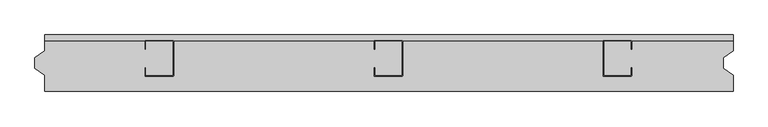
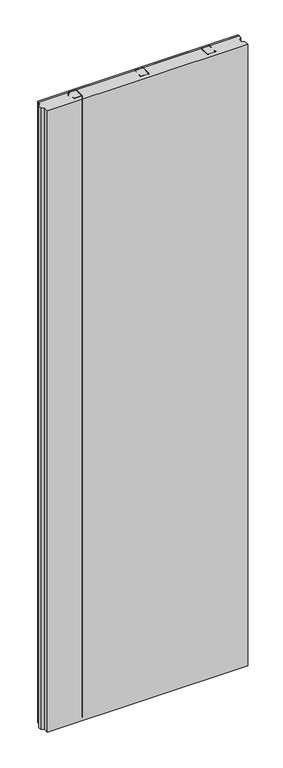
"""IFC4 building model written with IfcOpenShell, lengths in millimetres: plate geometry, Steelfoam Divisorio : Divisorio 9cm."""

from ifc_helpers import new_model, si_unit, point, frame_2d, origin, origin_with_axes, place, context, project, spatial, polyline, circle_curve, trimmed, segment, composite_curve, outline, extrude, source, transform, mapped, element, save


def plate_901790f3(model_context):
    return source(origin(), model_context, "Body", "SweptSolid", [
        extrude(outline(composite_curve([segment(trimmed(circle_curve(frame_2d((381.6603819, -61.5)), 2.0), [point((381.6603819, -63.5))], [point((379.6603819, -61.5))], False, "CARTESIAN"), True, "CONTINUOUS"), segment(polyline([(379.6603819, -61.5), (379.6603819, -2.0)]), True, "CONTINUOUS"), segment(trimmed(circle_curve(frame_2d((381.6603819, -2.0)), 2.0), [point((379.6603819, -2.0))], [point((381.6603819, 0.0))], False, "CARTESIAN"), True, "CONTINUOUS"), segment(polyline([(381.6603819, 0.0), (428.4603819, 0.0)]), True, "CONTINUOUS"), segment(trimmed(circle_curve(frame_2d((428.4603819, -2.0)), 2.0), [point((428.4603819, 0.0))], [point((430.4603819, -2.0))], False, "CARTESIAN"), True, "CONTINUOUS"), segment(polyline([(430.4603819, -2.0), (430.4603819, -15.0), (429.6603819, -15.0), (429.6603819, -2.0)]), True, "CONTINUOUS"), segment(trimmed(circle_curve(frame_2d((428.3603819, -2.0)), 1.3), [point((429.6603819, -2.0))], [point((428.3603819, -0.7))], True, "CARTESIAN"), True, "CONTINUOUS"), segment(polyline([(428.3603819, -0.7), (381.6603819, -0.7)]), True, "CONTINUOUS"), segment(trimmed(circle_curve(frame_2d((381.6603819, -2.0)), 1.3), [point((381.6603819, -0.7))], [point((380.3603819, -2.0))], True, "CARTESIAN"), True, "CONTINUOUS"), segment(polyline([(380.3603819, -2.0), (380.3603819, -61.5)]), True, "CONTINUOUS"), segment(trimmed(circle_curve(frame_2d((381.6603819, -61.5)), 1.3), [point((380.3603819, -61.5))], [point((381.6603819, -62.8))], True, "CARTESIAN"), True, "CONTINUOUS"), segment(polyline([(381.6603819, -62.8), (428.3603819, -62.8)]), True, "CONTINUOUS"), segment(trimmed(circle_curve(frame_2d((428.3603819, -61.5)), 1.3), [point((428.3603819, -62.8))], [point((429.6603819, -61.5))], True, "CARTESIAN"), True, "CONTINUOUS"), segment(polyline([(429.6603819, -61.5), (429.6603819, -48.5), (430.4603819, -48.5), (430.4603819, -61.5)]), True, "CONTINUOUS"), segment(trimmed(circle_curve(frame_2d((428.4603819, -61.5)), 2.0), [point((430.4603819, -61.5))], [point((428.4603819, -63.5))], False, "CARTESIAN"), True, "CONTINUOUS"), segment(polyline([(428.4603819, -63.5), (381.6603819, -63.5)]), True, "CONTINUOUS")], self_intersect=False)), origin_with_axes(), (0.0, 0.0, 1.0), 4000.0),
        extrude(outline(composite_curve([segment(polyline([(-383.6225297, -63.5), (-430.4225297, -63.5)]), True, "CONTINUOUS"), segment(trimmed(circle_curve(frame_2d((-430.4225297, -61.5)), 2.0), [point((-430.4225297, -63.5))], [point((-432.4225297, -61.5))], False, "CARTESIAN"), True, "CONTINUOUS"), segment(polyline([(-432.4225297, -61.5), (-432.4225297, -48.5), (-431.6225297, -48.5), (-431.6225297, -61.5)]), True, "CONTINUOUS"), segment(trimmed(circle_curve(frame_2d((-430.3225297, -61.5)), 1.3), [point((-431.6225297, -61.5))], [point((-430.3225297, -62.8))], True, "CARTESIAN"), True, "CONTINUOUS"), segment(polyline([(-430.3225297, -62.8), (-383.6225297, -62.8)]), True, "CONTINUOUS"), segment(trimmed(circle_curve(frame_2d((-383.6225297, -61.5)), 1.3), [point((-383.6225297, -62.8))], [point((-382.3225297, -61.5))], True, "CARTESIAN"), True, "CONTINUOUS"), segment(polyline([(-382.3225297, -61.5), (-382.3225297, -2.0)]), True, "CONTINUOUS"), segment(trimmed(circle_curve(frame_2d((-383.6225297, -2.0)), 1.3), [point((-382.3225297, -2.0))], [point((-383.6225297, -0.7))], True, "CARTESIAN"), True, "CONTINUOUS"), segment(polyline([(-383.6225297, -0.7), (-430.3225297, -0.7)]), True, "CONTINUOUS"), segment(trimmed(circle_curve(frame_2d((-430.3225297, -2.0)), 1.3), [point((-430.3225297, -0.7))], [point((-431.6225297, -2.0))], True, "CARTESIAN"), True, "CONTINUOUS"), segment(polyline([(-431.6225297, -2.0), (-431.6225297, -15.0), (-432.4225297, -15.0), (-432.4225297, -2.0)]), True, "CONTINUOUS"), segment(trimmed(circle_curve(frame_2d((-430.4225297, -2.0)), 2.0), [point((-432.4225297, -2.0))], [point((-430.4225297, 0.0))], False, "CARTESIAN"), True, "CONTINUOUS"), segment(polyline([(-430.4225297, 0.0), (-383.6225297, 0.0)]), True, "CONTINUOUS"), segment(trimmed(circle_curve(frame_2d((-383.6225297, -2.0)), 2.0), [point((-383.6225297, 0.0))], [point((-381.6225297, -2.0))], False, "CARTESIAN"), True, "CONTINUOUS"), segment(polyline([(-381.6225297, -2.0), (-381.6225297, -61.5)]), True, "CONTINUOUS"), segment(trimmed(circle_curve(frame_2d((-383.6225297, -61.5)), 2.0), [point((-381.6225297, -61.5))], [point((-383.6225297, -63.5))], False, "CARTESIAN"), True, "CONTINUOUS")], self_intersect=False)), origin_with_axes(), (0.0, 0.0, 1.0), 4000.0),
        extrude(outline(composite_curve([segment(polyline([(22.3849224, -63.5), (-24.4150776, -63.5)]), True, "CONTINUOUS"), segment(trimmed(circle_curve(frame_2d((-24.4150776, -61.5)), 2.0), [point((-24.4150776, -63.5))], [point((-26.4150776, -61.5))], False, "CARTESIAN"), True, "CONTINUOUS"), segment(polyline([(-26.4150776, -61.5), (-26.4150776, -48.5), (-25.6150776, -48.5), (-25.6150776, -61.5)]), True, "CONTINUOUS"), segment(trimmed(circle_curve(frame_2d((-24.3150776, -61.5)), 1.3), [point((-25.6150776, -61.5))], [point((-24.3150776, -62.8))], True, "CARTESIAN"), True, "CONTINUOUS"), segment(polyline([(-24.3150776, -62.8), (22.3849224, -62.8)]), True, "CONTINUOUS"), segment(trimmed(circle_curve(frame_2d((22.3849224, -61.5)), 1.3), [point((22.3849224, -62.8))], [point((23.6849224, -61.5))], True, "CARTESIAN"), True, "CONTINUOUS"), segment(polyline([(23.6849224, -61.5), (23.6849224, -2.0)]), True, "CONTINUOUS"), segment(trimmed(circle_curve(frame_2d((22.3849224, -2.0)), 1.3), [point((23.6849224, -2.0))], [point((22.3849224, -0.7))], True, "CARTESIAN"), True, "CONTINUOUS"), segment(polyline([(22.3849224, -0.7), (-24.3150776, -0.7)]), True, "CONTINUOUS"), segment(trimmed(circle_curve(frame_2d((-24.3150776, -2.0)), 1.3), [point((-24.3150776, -0.7))], [point((-25.6150776, -2.0))], True, "CARTESIAN"), True, "CONTINUOUS"), segment(polyline([(-25.6150776, -2.0), (-25.6150776, -15.0), (-26.4150776, -15.0), (-26.4150776, -2.0)]), True, "CONTINUOUS"), segment(trimmed(circle_curve(frame_2d((-24.4150776, -2.0)), 2.0), [point((-26.4150776, -2.0))], [point((-24.4150776, 0.0))], False, "CARTESIAN"), True, "CONTINUOUS"), segment(polyline([(-24.4150776, 0.0), (22.3849224, 0.0)]), True, "CONTINUOUS"), segment(trimmed(circle_curve(frame_2d((22.3849224, -2.0)), 2.0), [point((22.3849224, 0.0))], [point((24.3849224, -2.0))], False, "CARTESIAN"), True, "CONTINUOUS"), segment(polyline([(24.3849224, -2.0), (24.3849224, -61.5)]), True, "CONTINUOUS"), segment(trimmed(circle_curve(frame_2d((22.3849224, -61.5)), 2.0), [point((24.3849224, -61.5))], [point((22.3849224, -63.5))], False, "CARTESIAN"), True, "CONTINUOUS")], self_intersect=False)), origin_with_axes(), (0.0, 0.0, 1.0), 4000.0),
        extrude(outline(polyline([(610.0, 0.0), (-610.0, 0.0), (-610.0, 10.0), (610.0, 10.0), (610.0, 0.0)])), origin_with_axes(), (0.0, 0.0, 1.0), 4000.0),
        extrude(outline(polyline([(610.0, -90.0), (-610.0, -90.0), (-610.0, -61.6434349), (-627.6333408, -49.2964367), (-627.6333408, -30.7035633), (-610.0, -18.3565651), (-610.0, 0.0), (-432.4225297, 0.0), (-432.4225297, -0.8), (-381.6225297, -0.8), (-381.6225297, 0.0), (-26.4150776, 0.0), (-26.4150776, -0.8), (24.3849224, -0.8), (24.3849224, 0.0), (379.6603819, 0.0), (379.6603819, -0.8), (430.4603819, -0.8), (430.4603819, 0.0), (610.0, 0.0), (610.0, -18.3565651), (592.3666592, -30.7035633), (592.3666592, -49.2964367), (610.0, -61.6434349), (610.0, -90.0)])), origin_with_axes(), (0.0, 0.0, 1.0), 4000.0),
    ])


if __name__ == "__main__":
    model = new_model("IFC4")
    model_context = context("Model", 3, world=origin())
    ifc_project = project(units=[si_unit("LENGTHUNIT", "METRE", prefix="MILLI")], contexts=[model_context])
    site = spatial("IfcSite", under=ifc_project)
    building = spatial("IfcBuilding", under=site)
    placement = place(None, origin())
    plate_shape = plate_901790f3(model_context)
    element("IfcPlate", 1, ObjectType="Steelfoam Divisorio : Divisorio 9cm", at=placement, inside=building, context=model_context, shape_type="MappedRepresentation", body=[
        mapped(plate_shape, transform((0.0, 0.0, 0.0), x_axis=(1.0, 0.0, 0.0), y_axis=(0.0, 1.0, 0.0), z_axis=(0.0, 0.0, 1.0))),
    ])
    save(model, "model.ifc")
